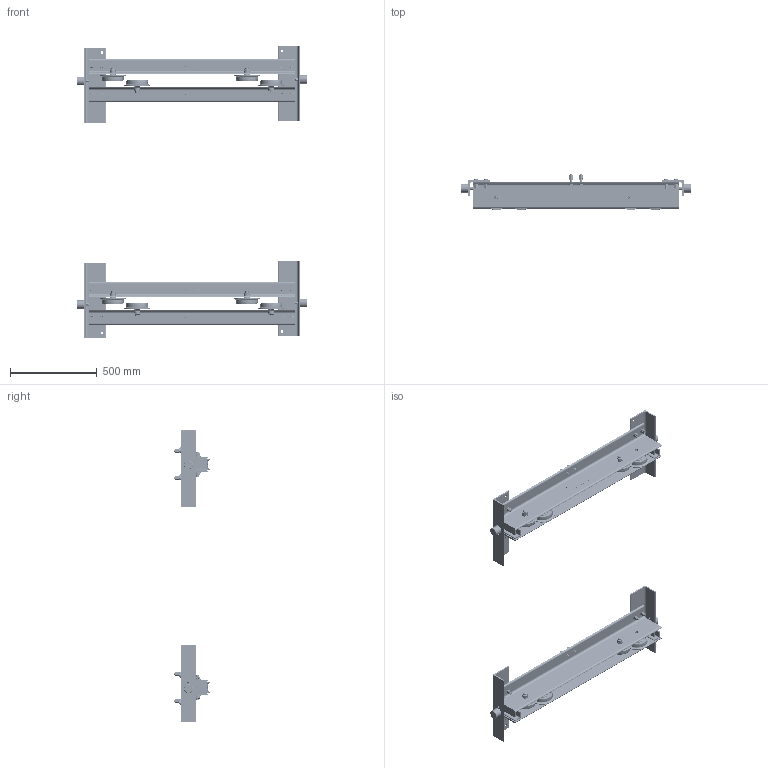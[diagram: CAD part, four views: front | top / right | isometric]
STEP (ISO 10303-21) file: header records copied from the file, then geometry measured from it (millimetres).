
FILE_DESCRIPTION (( 'STEP AP214' ), '1' );
FILE_NAME ('HPC520 Top.STEP', '2026-08-11T20:01:51', ( '' ), ( '' ), 'SwSTEP 2.0', 'SolidWorks 2026', '' );
FILE_SCHEMA (( 'AUTOMOTIVE_DESIGN' ));
Length unit declared in the file: millimetre
Products named in the file (2): HPC520 Top (Half pair 25#); HPC520 Top
Assembly tree (2 placements, depth 2):
  HPC520 Top
    HPC520 Top (Half pair 25#)  x2
Bounding box: 1327.16 x 209.6 x 1682.6 mm (x, y, z)
Volume: 16493617.7 mm3; surface area: 4028247.4 mm2
Topology: 182 solids, 182 shells, 4760 faces, 12700 edges, 8760 vertices
Faces by surface type: plane 1744, cone 1568, cylinder 1176, torus 272
Entity records: 117437 total; most frequent: CARTESIAN_POINT 31426, ORIENTED_EDGE 12700, DIRECTION 11478, EDGE_CURVE 6350, AXIS2_PLACEMENT_3D 4505, VERTEX_POINT 4380, EDGE_LOOP 2808, UNCERTAINTY_MEASURE_WITH_UNIT 2474
